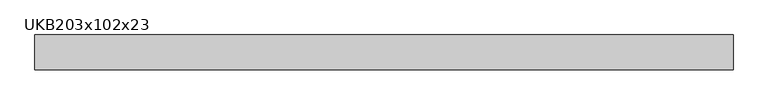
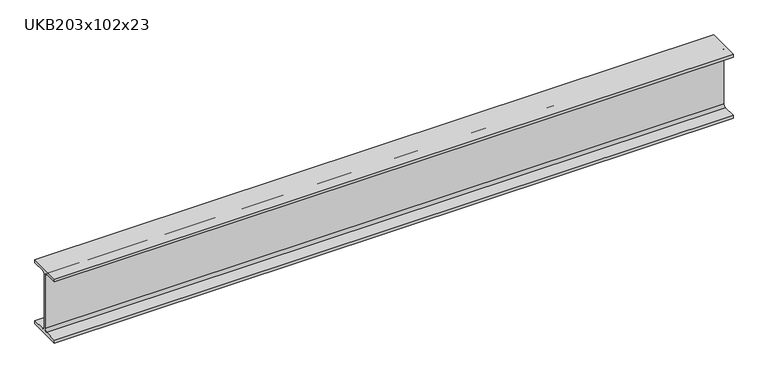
"""IFC4 building model written with IfcOpenShell, lengths in millimetres: beam geometry, UKB-UK Beams : UKB203x102x23."""

from ifc_helpers import new_model, si_unit, point, frame, frame_2d, origin, place, context, project, spatial, polyline, circle_curve, trimmed, segment, composite_curve, outline, extrude, source, transform, mapped, element, save


def ukb203x102x23_61a5cdbc(model_context):
    return source(origin(), model_context, "Body", "SweptSolid", [
        extrude(outline(composite_curve([segment(polyline([(50.9, -92.3), (50.9, -101.6), (-50.9, -101.6), (-50.9, -92.3), (-10.3, -92.3)]), True, "CONTINUOUS"), segment(trimmed(circle_curve(frame_2d((-10.3, -84.7)), 7.6), [point((-10.3, -92.3))], [point((-2.7, -84.7))], True, "CARTESIAN"), True, "CONTINUOUS"), segment(polyline([(-2.7, -84.7), (-2.7, 84.7)]), True, "CONTINUOUS"), segment(trimmed(circle_curve(frame_2d((-10.3, 84.7)), 7.6), [point((-2.7, 84.7))], [point((-10.3, 92.3))], True, "CARTESIAN"), True, "CONTINUOUS"), segment(polyline([(-10.3, 92.3), (-50.9, 92.3), (-50.9, 101.6), (50.9, 101.6), (50.9, 92.3), (10.3, 92.3)]), True, "CONTINUOUS"), segment(trimmed(circle_curve(frame_2d((10.3, 84.7)), 7.6), [point((10.3, 92.3))], [point((2.7, 84.7))], True, "CARTESIAN"), True, "CONTINUOUS"), segment(polyline([(2.7, 84.7), (2.7, -84.7)]), True, "CONTINUOUS"), segment(trimmed(circle_curve(frame_2d((10.3, -84.7)), 7.6), [point((2.7, -84.7))], [point((10.3, -92.3))], True, "CARTESIAN"), True, "CONTINUOUS"), segment(polyline([(10.3, -92.3), (50.9, -92.3)]), True, "CONTINUOUS")], self_intersect=False)), frame((-1056.0808741, 0.0, 0.0), z_axis=(1.0, 0.0, 0.0), x_axis=(0.0, 1.0, 0.0)), (0.0, 0.0, 1.0), 2040.0),
    ])


if __name__ == "__main__":
    model = new_model("IFC4")
    model_context = context("Model", 3, world=origin())
    ifc_project = project(units=[si_unit("LENGTHUNIT", "METRE", prefix="MILLI")], contexts=[model_context])
    site = spatial("IfcSite", under=ifc_project)
    building = spatial("IfcBuilding", under=site)
    placement = place(None, origin())
    ukb203x102x23_shape = ukb203x102x23_61a5cdbc(model_context)
    element("IfcBeam", 1, ObjectType="UKB-UK Beams : UKB203x102x23", at=placement, inside=building, context=model_context, shape_type="MappedRepresentation", body=[
        mapped(ukb203x102x23_shape, transform((0.0, 0.0, 0.0), x_axis=(1.0, 0.0, 0.0), y_axis=(0.0, 1.0, 0.0), z_axis=(0.0, 0.0, 1.0))),
    ])
    save(model, "model.ifc")
